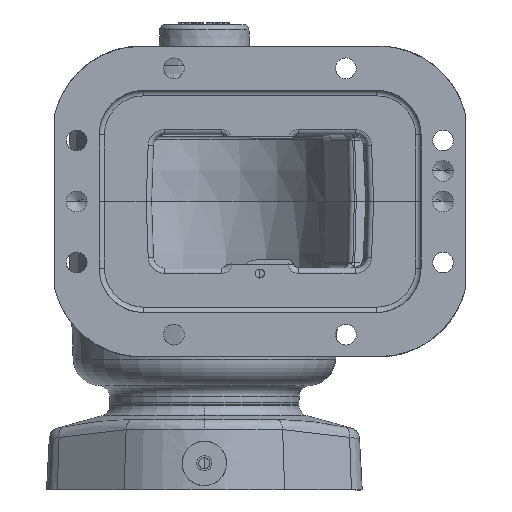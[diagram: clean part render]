
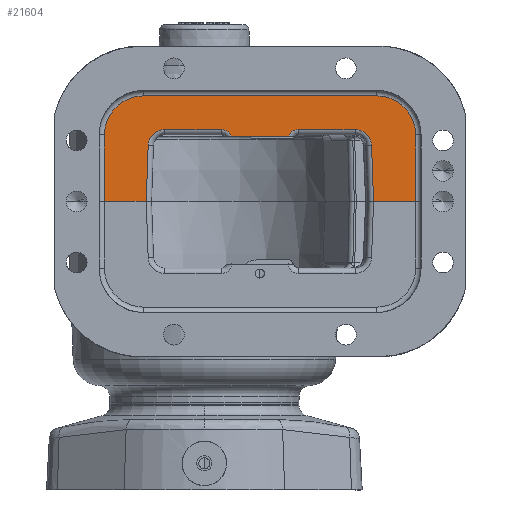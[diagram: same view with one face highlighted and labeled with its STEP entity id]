
A CAD part, front view. The second image highlights one B-rep face of the part: STEP entity #21604.
In plain terms, the highlighted planar face has unit normal (0, -1, 0).
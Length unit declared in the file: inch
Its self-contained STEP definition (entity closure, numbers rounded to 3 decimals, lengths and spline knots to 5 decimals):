
#96 = LINE ( 'NONE', #46777, #52098 ) ;
#103 = CIRCLE ( 'NONE', #79579, 0.37 ) ;
#494 = LINE ( 'NONE', #34051, #75285 ) ;
#1204 = DIRECTION ( 'NONE',  ( 0., 1., 0. ) ) ;
#1325 = CIRCLE ( 'NONE', #45940, 0.37 ) ;
#2228 = DIRECTION ( 'NONE',  ( 0., 1., 0. ) ) ;
#2729 = DIRECTION ( 'NONE',  ( 0., -1., 0. ) ) ;
#4267 = AXIS2_PLACEMENT_3D ( 'NONE', #36728, #17594, #70776 ) ;
#4338 = DIRECTION ( 'NONE',  ( 0., 0., -1. ) ) ;
#4535 = ORIENTED_EDGE ( 'NONE', *, *, #26101, .F. ) ;
#6500 = CARTESIAN_POINT ( 'NONE',  ( -1.47, -4.3, 1.89503 ) ) ;
#6538 = AXIS2_PLACEMENT_3D ( 'NONE', #62003, #2228, #52585 ) ;
#7060 = DIRECTION ( 'NONE',  ( 0., 0., 1. ) ) ;
#7451 = CARTESIAN_POINT ( 'NONE',  ( 0., -4.3, 4.76 ) ) ;
#8203 = CARTESIAN_POINT ( 'NONE',  ( -3.5, -4.3, -3.37 ) ) ;
#8238 = CARTESIAN_POINT ( 'NONE',  ( -1.25, -4.3, 3.3962 ) ) ;
#9605 = VERTEX_POINT ( 'NONE', #30850 ) ;
#9719 = CARTESIAN_POINT ( 'NONE',  ( -1.62, -4.3, 3.3962 ) ) ;
#10167 = EDGE_CURVE ( 'NONE', #62419, #71632, #57089, .T. ) ;
#10339 = CARTESIAN_POINT ( 'NONE',  ( -1.5, -4.3, -2.25 ) ) ;
#11010 = EDGE_CURVE ( 'NONE', #64439, #62419, #70603, .T. ) ;
#11981 = ORIENTED_EDGE ( 'NONE', *, *, #50390, .F. ) ;
#13072 = CARTESIAN_POINT ( 'NONE',  ( -2.38, -4.3, 3.88 ) ) ;
#13605 = DIRECTION ( 'NONE',  ( 0., 0., 1. ) ) ;
#13874 = VERTEX_POINT ( 'NONE', #70591 ) ;
#15195 = LINE ( 'NONE', #75388, #80676 ) ;
#15446 = ORIENTED_EDGE ( 'NONE', *, *, #39537, .F. ) ;
#16079 = DIRECTION ( 'NONE',  ( 0., 0., -1. ) ) ;
#16532 = CARTESIAN_POINT ( 'NONE',  ( -0.00419, -4.3, -1.30993 ) ) ;
#17594 = DIRECTION ( 'NONE',  ( 0., -1., 0. ) ) ;
#17911 = CARTESIAN_POINT ( 'NONE',  ( -1.62, -4.3, 2.11752 ) ) ;
#19539 = VERTEX_POINT ( 'NONE', #9719 ) ;
#19854 = EDGE_LOOP ( 'NONE', ( #43219, #15446, #22438, #4535, #11981, #79679, #77867, #39221, #25042, #82194, #84006, #74142, #37027, #39181, #48870, #83965 ) ) ;
#20311 = EDGE_CURVE ( 'NONE', #74198, #47022, #50165, .T. ) ;
#20467 = VERTEX_POINT ( 'NONE', #44886 ) ;
#21261 = CARTESIAN_POINT ( 'NONE',  ( -1.62, -4.3, 0.38248 ) ) ;
#21604 = ADVANCED_FACE ( 'NONE', ( #47481 ), #74097, .F. ) ;
#21649 = VERTEX_POINT ( 'NONE', #6500 ) ;
#21773 = EDGE_CURVE ( 'NONE', #47554, #22578, #15195, .T. ) ;
#22438 = ORIENTED_EDGE ( 'NONE', *, *, #40919, .F. ) ;
#22578 = VERTEX_POINT ( 'NONE', #35325 ) ;
#23113 = EDGE_CURVE ( 'NONE', #22578, #32502, #1325, .T. ) ;
#24404 = EDGE_CURVE ( 'NONE', #47022, #64439, #494, .T. ) ;
#25042 = ORIENTED_EDGE ( 'NONE', *, *, #24404, .F. ) ;
#26101 = EDGE_CURVE ( 'NONE', #35581, #19539, #103, .T. ) ;
#27013 = CARTESIAN_POINT ( 'NONE',  ( 0., -4.3, -2.25 ) ) ;
#29678 = EDGE_CURVE ( 'NONE', #37984, #9605, #46124, .T. ) ;
#30850 = CARTESIAN_POINT ( 'NONE',  ( 0., -4.3, -1.31007 ) ) ;
#32502 = VERTEX_POINT ( 'NONE', #46591 ) ;
#34051 = CARTESIAN_POINT ( 'NONE',  ( -2.38, -4.3, 3.88 ) ) ;
#34812 = DIRECTION ( 'NONE',  ( 0., -1., 0. ) ) ;
#35325 = CARTESIAN_POINT ( 'NONE',  ( -1.62, -4.3, -0.8962 ) ) ;
#35581 = VERTEX_POINT ( 'NONE', #66553 ) ;
#36728 = CARTESIAN_POINT ( 'NONE',  ( -1.38, -4.3, 2.11752 ) ) ;
#37027 = ORIENTED_EDGE ( 'NONE', *, *, #80138, .F. ) ;
#37826 = CARTESIAN_POINT ( 'NONE',  ( -1.38, -4.3, 0.38248 ) ) ;
#37984 = VERTEX_POINT ( 'NONE', #27013 ) ;
#39181 = ORIENTED_EDGE ( 'NONE', *, *, #23113, .F. ) ;
#39221 = ORIENTED_EDGE ( 'NONE', *, *, #11010, .F. ) ;
#39537 = EDGE_CURVE ( 'NONE', #56033, #21649, #46056, .T. ) ;
#40907 = DIRECTION ( 'NONE',  ( 0., 0., -1. ) ) ;
#40919 = EDGE_CURVE ( 'NONE', #19539, #56033, #43611, .T. ) ;
#42205 = DIRECTION ( 'NONE',  ( 0., 0., -1. ) ) ;
#43219 = ORIENTED_EDGE ( 'NONE', *, *, #66526, .F. ) ;
#43611 = LINE ( 'NONE', #17911, #52919 ) ;
#44886 = CARTESIAN_POINT ( 'NONE',  ( 0., -4.3, 3.81007 ) ) ;
#45046 = CARTESIAN_POINT ( 'NONE',  ( -1.5, -4.3, -2.25 ) ) ;
#45940 = AXIS2_PLACEMENT_3D ( 'NONE', #49003, #2729, #48569 ) ;
#45986 = AXIS2_PLACEMENT_3D ( 'NONE', #78064, #64959, #4338 ) ;
#46056 = CIRCLE ( 'NONE', #4267, 0.24 ) ;
#46124 = LINE ( 'NONE', #85387, #69056 ) ;
#46591 = CARTESIAN_POINT ( 'NONE',  ( -1.26291, -4.3, -1.26597 ) ) ;
#46777 = CARTESIAN_POINT ( 'NONE',  ( -1.26291, -4.3, 3.76597 ) ) ;
#47022 = VERTEX_POINT ( 'NONE', #69302 ) ;
#47481 = FACE_OUTER_BOUND ( 'NONE', #19854, .T. ) ;
#47554 = VERTEX_POINT ( 'NONE', #21261 ) ;
#47563 = CARTESIAN_POINT ( 'NONE',  ( -1.5, -4.3, 4.76 ) ) ;
#48105 = VECTOR ( 'NONE', #16079, 39.37008 ) ;
#48368 = DIRECTION ( 'NONE',  ( 0., 0., -1. ) ) ;
#48569 = DIRECTION ( 'NONE',  ( 0., 0., -1. ) ) ;
#48870 = ORIENTED_EDGE ( 'NONE', *, *, #21773, .F. ) ;
#49003 = CARTESIAN_POINT ( 'NONE',  ( -1.25, -4.3, -0.8962 ) ) ;
#50165 = CIRCLE ( 'NONE', #45986, 0.88 ) ;
#50390 = EDGE_CURVE ( 'NONE', #20467, #35581, #96, .T. ) ;
#50532 = CARTESIAN_POINT ( 'NONE',  ( 0., -4.3, 4.76 ) ) ;
#51371 = DIRECTION ( 'NONE',  ( 0., -1., 0. ) ) ;
#52098 = VECTOR ( 'NONE', #74673, 39.37008 ) ;
#52585 = DIRECTION ( 'NONE',  ( 0., 0., -1. ) ) ;
#52919 = VECTOR ( 'NONE', #83306, 39.37008 ) ;
#56033 = VERTEX_POINT ( 'NONE', #74674 ) ;
#57089 = LINE ( 'NONE', #50532, #66760 ) ;
#59048 = EDGE_CURVE ( 'NONE', #20467, #71632, #60698, .T. ) ;
#59219 = DIRECTION ( 'NONE',  ( 0., 0., -1. ) ) ;
#60698 = LINE ( 'NONE', #67238, #78937 ) ;
#61886 = LINE ( 'NONE', #16532, #72425 ) ;
#62003 = CARTESIAN_POINT ( 'NONE',  ( -1.5, -4.3, 3.88 ) ) ;
#62043 = CIRCLE ( 'NONE', #85711, 0.24 ) ;
#62419 = VERTEX_POINT ( 'NONE', #47563 ) ;
#62745 = DIRECTION ( 'NONE',  ( 1., 0., 0. ) ) ;
#63921 = AXIS2_PLACEMENT_3D ( 'NONE', #8203, #1204, #40907 ) ;
#64439 = VERTEX_POINT ( 'NONE', #13072 ) ;
#64897 = DIRECTION ( 'NONE',  ( 0., 0., 1. ) ) ;
#64959 = DIRECTION ( 'NONE',  ( 0., 1., 0. ) ) ;
#66526 = EDGE_CURVE ( 'NONE', #21649, #13874, #75821, .T. ) ;
#66552 = EDGE_CURVE ( 'NONE', #13874, #47554, #62043, .T. ) ;
#66553 = CARTESIAN_POINT ( 'NONE',  ( -1.26291, -4.3, 3.76597 ) ) ;
#66760 = VECTOR ( 'NONE', #62745, 39.37008 ) ;
#67238 = CARTESIAN_POINT ( 'NONE',  ( 0., -4.3, -3.37 ) ) ;
#68845 = CARTESIAN_POINT ( 'NONE',  ( -1.47, -4.3, -3.37 ) ) ;
#68868 = DIRECTION ( 'NONE',  ( 0.999, 0., -0.035 ) ) ;
#69056 = VECTOR ( 'NONE', #64897, 39.37008 ) ;
#69302 = CARTESIAN_POINT ( 'NONE',  ( -2.38, -4.3, -1.37 ) ) ;
#70591 = CARTESIAN_POINT ( 'NONE',  ( -1.47, -4.3, 0.60497 ) ) ;
#70603 = CIRCLE ( 'NONE', #6538, 0.88 ) ;
#70776 = DIRECTION ( 'NONE',  ( 0., 0., -1. ) ) ;
#71632 = VERTEX_POINT ( 'NONE', #7451 ) ;
#71670 = DIRECTION ( 'NONE',  ( -1., 0., 0. ) ) ;
#72425 = VECTOR ( 'NONE', #68868, 39.37008 ) ;
#74097 = PLANE ( 'NONE',  #63921 ) ;
#74142 = ORIENTED_EDGE ( 'NONE', *, *, #29678, .T. ) ;
#74198 = VERTEX_POINT ( 'NONE', #10339 ) ;
#74673 = DIRECTION ( 'NONE',  ( -0.999, 0., -0.035 ) ) ;
#74674 = CARTESIAN_POINT ( 'NONE',  ( -1.62, -4.3, 2.11752 ) ) ;
#75285 = VECTOR ( 'NONE', #7060, 39.37008 ) ;
#75388 = CARTESIAN_POINT ( 'NONE',  ( -1.62, -4.3, -0.8962 ) ) ;
#75821 = LINE ( 'NONE', #68845, #48105 ) ;
#77867 = ORIENTED_EDGE ( 'NONE', *, *, #10167, .F. ) ;
#78064 = CARTESIAN_POINT ( 'NONE',  ( -1.5, -4.3, -1.37 ) ) ;
#78937 = VECTOR ( 'NONE', #13605, 39.37008 ) ;
#79579 = AXIS2_PLACEMENT_3D ( 'NONE', #8238, #34812, #48368 ) ;
#79649 = EDGE_CURVE ( 'NONE', #37984, #74198, #86030, .T. ) ;
#79679 = ORIENTED_EDGE ( 'NONE', *, *, #59048, .T. ) ;
#80138 = EDGE_CURVE ( 'NONE', #32502, #9605, #61886, .T. ) ;
#80676 = VECTOR ( 'NONE', #42205, 39.37008 ) ;
#82194 = ORIENTED_EDGE ( 'NONE', *, *, #20311, .F. ) ;
#83306 = DIRECTION ( 'NONE',  ( 0., 0., -1. ) ) ;
#83965 = ORIENTED_EDGE ( 'NONE', *, *, #66552, .F. ) ;
#84006 = ORIENTED_EDGE ( 'NONE', *, *, #79649, .F. ) ;
#84930 = VECTOR ( 'NONE', #71670, 39.37008 ) ;
#85387 = CARTESIAN_POINT ( 'NONE',  ( 0., -4.3, -3.37 ) ) ;
#85711 = AXIS2_PLACEMENT_3D ( 'NONE', #37826, #51371, #59219 ) ;
#86030 = LINE ( 'NONE', #45046, #84930 ) ;
